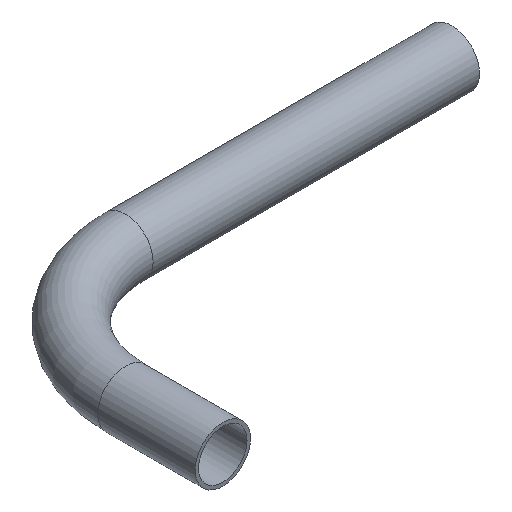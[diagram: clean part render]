
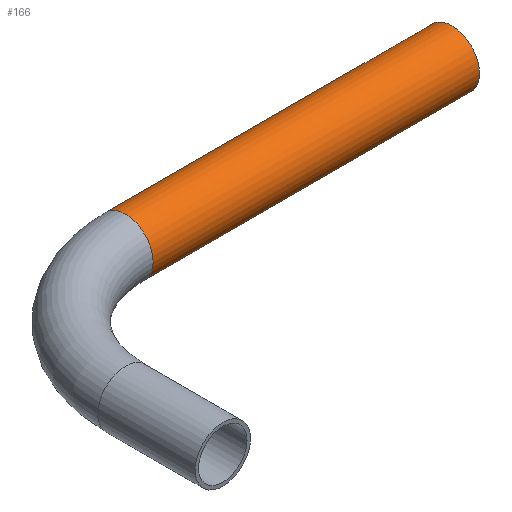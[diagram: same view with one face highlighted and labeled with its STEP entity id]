
A CAD part, isometric view. The second image highlights one B-rep face of the part: STEP entity #166.
In plain terms, the highlighted cylindrical face has radius 24.15 mm (diameter 48.3 mm), a full revolution.
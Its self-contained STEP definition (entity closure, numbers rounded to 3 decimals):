
#2 = DIRECTION ( 'NONE',  ( 0., 1., 0. ) ) ;
#6 = ORIENTED_EDGE ( 'NONE', *, *, #184, .T. ) ;
#14 = DIRECTION ( 'NONE',  ( 0., 0., 1. ) ) ;
#15 = AXIS2_PLACEMENT_3D ( 'NONE', #111, #229, #186 ) ;
#20 = DIRECTION ( 'NONE',  ( 1., 0., 0. ) ) ;
#33 = FACE_OUTER_BOUND ( 'NONE', #179, .T. ) ;
#50 = CARTESIAN_POINT ( 'NONE',  ( 115., 200., 24.15 ) ) ;
#57 = CARTESIAN_POINT ( 'NONE',  ( 115., 200., 0. ) ) ;
#68 = EDGE_LOOP ( 'NONE', ( #182 ) ) ;
#73 = VERTEX_POINT ( 'NONE', #50 ) ;
#96 = AXIS2_PLACEMENT_3D ( 'NONE', #57, #230, #14 ) ;
#97 = CARTESIAN_POINT ( 'NONE',  ( 115., 200., 0. ) ) ;
#107 = AXIS2_PLACEMENT_3D ( 'NONE', #97, #20, #2 ) ;
#111 = CARTESIAN_POINT ( 'NONE',  ( 400., 200., 0. ) ) ;
#112 = CYLINDRICAL_SURFACE ( 'NONE', #107, 24.15 ) ;
#113 = VERTEX_POINT ( 'NONE', #249 ) ;
#133 = FACE_OUTER_BOUND ( 'NONE', #68, .T. ) ;
#166 = ADVANCED_FACE ( 'NONE', ( #133, #33 ), #112, .T. ) ;
#179 = EDGE_LOOP ( 'NONE', ( #6 ) ) ;
#182 = ORIENTED_EDGE ( 'NONE', *, *, #213, .F. ) ;
#184 = EDGE_CURVE ( 'NONE', #73, #73, #212, .T. ) ;
#186 = DIRECTION ( 'NONE',  ( 0., 0., 1. ) ) ;
#212 = CIRCLE ( 'NONE', #96, 24.15 ) ;
#213 = EDGE_CURVE ( 'NONE', #113, #113, #248, .T. ) ;
#229 = DIRECTION ( 'NONE',  ( 1., 0., 0. ) ) ;
#230 = DIRECTION ( 'NONE',  ( 1., 0., 0. ) ) ;
#248 = CIRCLE ( 'NONE', #15, 24.15 ) ;
#249 = CARTESIAN_POINT ( 'NONE',  ( 400., 200., 24.15 ) ) ;
